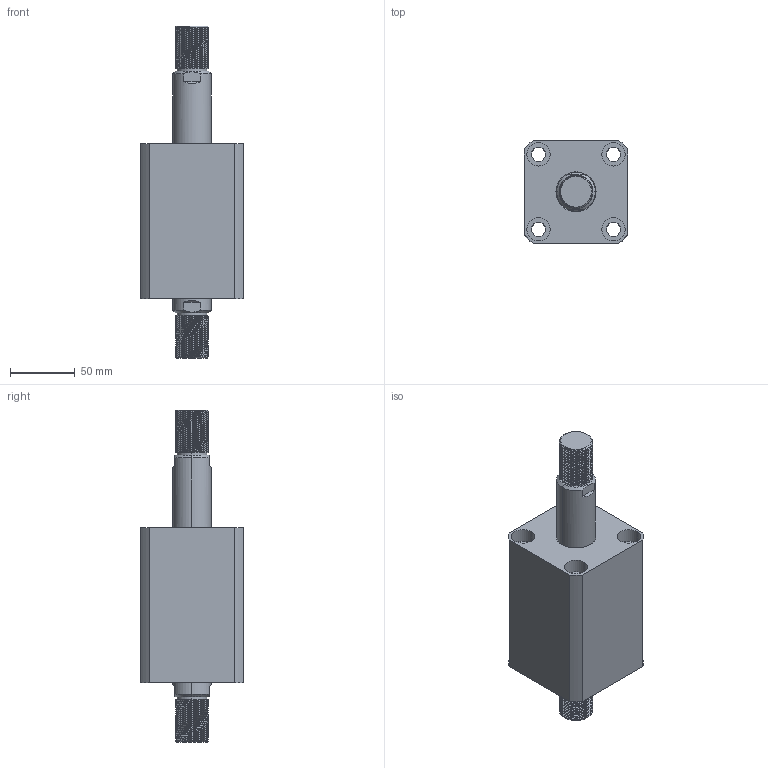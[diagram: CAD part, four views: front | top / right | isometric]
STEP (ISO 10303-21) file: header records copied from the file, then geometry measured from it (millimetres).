
FILE_DESCRIPTION (( 'STEP AP203' ), '1' );
FILE_NAME ('CHTB-SW50-45W.STEP', '2018-05-21T06:15:37', ( '' ), ( '' ), 'SwSTEP 2.0', 'SolidWorks 2015', '' );
FILE_SCHEMA (( 'CONFIG_CONTROL_DESIGN' ));
Length unit declared in the file: millimetre
Products named in the file (4): CHTB-SW50-45W; 活塞杆SW50-45W; 掛极SW50-45W; ヶ裔
Assembly tree (3 placements, depth 2):
  CHTB-SW50-45W
    掛极SW50-45W
    活塞杆SW50-45W
    ヶ裔
Bounding box: 80 x 80 x 257 mm (x, y, z)
Volume: 714445 mm3; surface area: 133585 mm2
Topology: 3 solids, 3 shells, 314 faces, 794 edges, 514 vertices
Faces by surface type: cylinder 202, plane 51, cone 29, torus 24, bspline 8
Entity records: 17377 total; most frequent: CARTESIAN_POINT 10049, ORIENTED_EDGE 1580, DIRECTION 1358, EDGE_CURVE 790, AXIS2_PLACEMENT_3D 549, VERTEX_POINT 514, EDGE_LOOP 362, FACE_OUTER_BOUND 314
